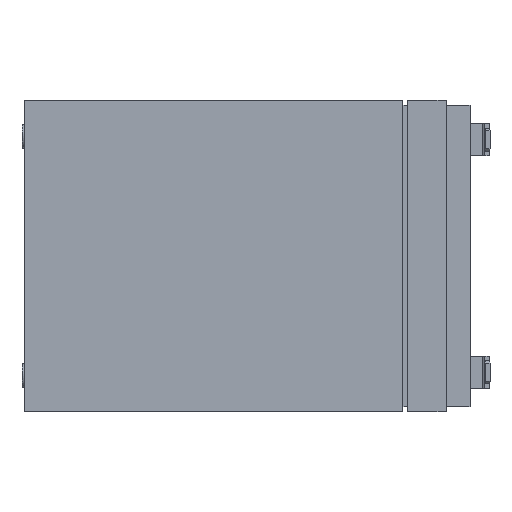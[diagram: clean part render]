
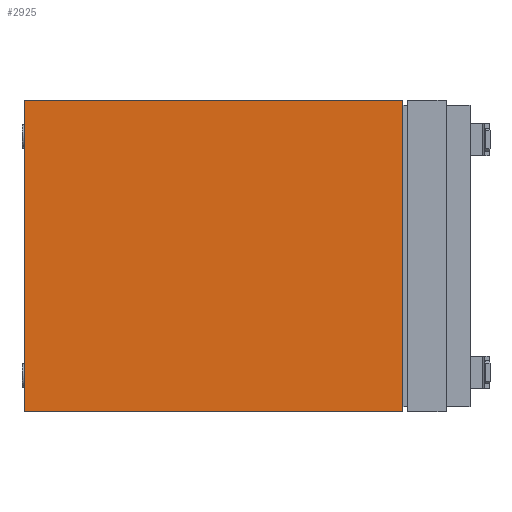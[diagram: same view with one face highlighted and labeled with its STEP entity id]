
A CAD part, left-side view. The second image highlights one B-rep face of the part: STEP entity #2925.
In plain terms, the highlighted planar face has unit normal (-1, 0, 0).
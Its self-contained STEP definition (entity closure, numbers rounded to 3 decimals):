
#366 = CARTESIAN_POINT ( 'NONE',  ( -75.5, -79., 32.5 ) ) ;
#466 = LINE ( 'NONE', #1417, #1020 ) ;
#539 = CARTESIAN_POINT ( 'NONE',  ( -75.5, -93., 32.5 ) ) ;
#559 = CARTESIAN_POINT ( 'NONE',  ( -75.5, -79., -32.5 ) ) ;
#562 = VERTEX_POINT ( 'NONE', #1915 ) ;
#638 = EDGE_CURVE ( 'NONE', #2307, #562, #2099, .T. ) ;
#681 = DIRECTION ( 'NONE',  ( 0., 0., -1. ) ) ;
#790 = EDGE_CURVE ( 'NONE', #2754, #562, #1870, .T. ) ;
#939 = ORIENTED_EDGE ( 'NONE', *, *, #2918, .F. ) ;
#1020 = VECTOR ( 'NONE', #2620, 1000. ) ;
#1200 = EDGE_LOOP ( 'NONE', ( #939, #3086, #2716, #1899 ) ) ;
#1417 = CARTESIAN_POINT ( 'NONE',  ( -75.5, -93., -32.5 ) ) ;
#1432 = DIRECTION ( 'NONE',  ( 0., 0., 1. ) ) ;
#1543 = VERTEX_POINT ( 'NONE', #559 ) ;
#1601 = LINE ( 'NONE', #366, #1646 ) ;
#1637 = CARTESIAN_POINT ( 'NONE',  ( -75.5, 0., 32.5 ) ) ;
#1646 = VECTOR ( 'NONE', #681, 1000. ) ;
#1870 = LINE ( 'NONE', #1637, #3572 ) ;
#1899 = ORIENTED_EDGE ( 'NONE', *, *, #790, .F. ) ;
#1915 = CARTESIAN_POINT ( 'NONE',  ( -75.5, 0., 32.5 ) ) ;
#2099 = LINE ( 'NONE', #539, #2243 ) ;
#2243 = VECTOR ( 'NONE', #2270, 1000. ) ;
#2270 = DIRECTION ( 'NONE',  ( 0., 1., 0. ) ) ;
#2307 = VERTEX_POINT ( 'NONE', #2363 ) ;
#2316 = DIRECTION ( 'NONE',  ( -1., 0., 0. ) ) ;
#2326 = CARTESIAN_POINT ( 'NONE',  ( -75.5, -93., 32.5 ) ) ;
#2363 = CARTESIAN_POINT ( 'NONE',  ( -75.5, -79., 32.5 ) ) ;
#2382 = FACE_OUTER_BOUND ( 'NONE', #1200, .T. ) ;
#2431 = EDGE_CURVE ( 'NONE', #2307, #1543, #1601, .T. ) ;
#2620 = DIRECTION ( 'NONE',  ( 0., 1., 0. ) ) ;
#2716 = ORIENTED_EDGE ( 'NONE', *, *, #638, .T. ) ;
#2754 = VERTEX_POINT ( 'NONE', #3343 ) ;
#2915 = PLANE ( 'NONE',  #3746 ) ;
#2918 = EDGE_CURVE ( 'NONE', #1543, #2754, #466, .T. ) ;
#2925 = ADVANCED_FACE ( 'NONE', ( #2382 ), #2915, .T. ) ;
#3086 = ORIENTED_EDGE ( 'NONE', *, *, #2431, .F. ) ;
#3343 = CARTESIAN_POINT ( 'NONE',  ( -75.5, 0., -32.5 ) ) ;
#3572 = VECTOR ( 'NONE', #3709, 1000. ) ;
#3709 = DIRECTION ( 'NONE',  ( 0., 0., 1. ) ) ;
#3746 = AXIS2_PLACEMENT_3D ( 'NONE', #2326, #2316, #1432 ) ;
